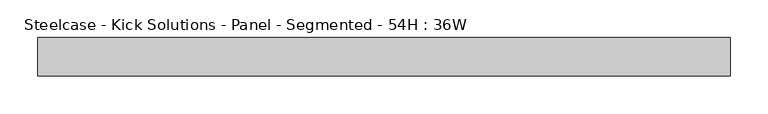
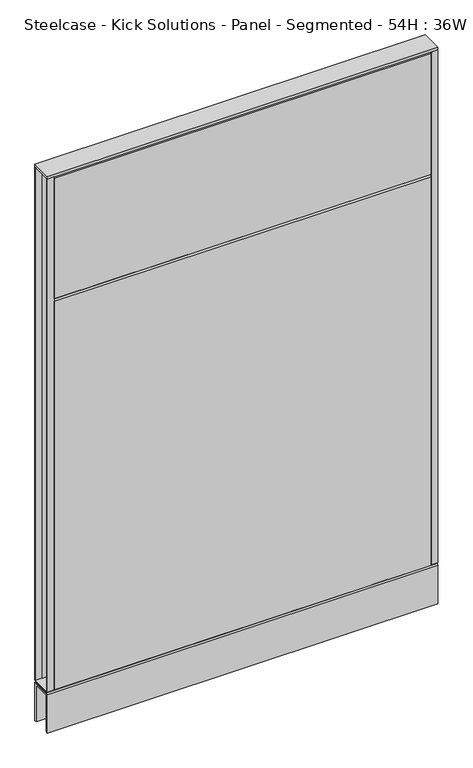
"""IFC4 building model written with IfcOpenShell, lengths in millimetres: furniture geometry, Steelcase - Kick Solutions - Panel - Segmented - 54H : 36W."""

import ifcopenshell
import ifcopenshell.guid

model = None  # the IFC model being written
_history = None  # IfcOwnerHistory: only IFC2X3 demands one
_inside = {}  # id of a spatial element -> (the spatial element, [elements in it])
_under = {}  # id of a project, library or spatial element -> (it, [spatial elements below it])
_declared = {}  # id of a project -> (the project, [libraries it declares])
_typed = {}  # id of a type object -> (the type object, [elements of that type])
_made_of = {}  # id of a material, layer set ... -> (it, [elements and type objects made of it])


def new_model(schema):
    """Start an empty IFC model of exactly this schema.

    Asked for "IFC4X3", IfcOpenShell would pick the latest addendum, in which some entities
    have other attributes; the version numbers below select the first issue.
    IFC2X3 requires an IfcOwnerHistory on every rooted entity: one is made here for all.
    """
    global model, _history
    if schema == "IFC4X3":
        model = ifcopenshell.file(schema_version=(4, 3, 0, 0))
    else:
        model = ifcopenshell.file(schema=schema)
    _inside.clear()
    _under.clear()
    _declared.clear()
    _typed.clear()
    _made_of.clear()
    _history = None
    if model.schema == "IFC2X3":
        org = make("IfcOrganization", Name="unknown")
        user = make(
            "IfcPersonAndOrganization",
            ThePerson=make("IfcPerson", FamilyName="unknown"),
            TheOrganization=org,
        )
        app = make(
            "IfcApplication",
            ApplicationDeveloper=org,
            Version="unknown",
            ApplicationFullName="unknown",
            ApplicationIdentifier="unknown",
        )
        _history = make(
            "IfcOwnerHistory",
            OwningUser=user,
            OwningApplication=app,
            ChangeAction="ADDED",
            CreationDate=0,
        )
    return model


def make(cls, **values):
    """One entity of the class cls with the attributes given. An attribute that is None is left unset."""
    return model.create_entity(
        cls, **{name: value for name, value in values.items() if value is not None}
    )


def rooted(cls, **values):
    """An entity with a GlobalId (a new one), such as an element, a storey or a relation."""
    return make(cls, GlobalId=ifcopenshell.guid.new(), OwnerHistory=_history, **values)


def si_unit(unit_type, name, prefix=None):
    """IfcSIUnit, for example si_unit("LENGTHUNIT", "METRE", prefix="MILLI")."""
    return make("IfcSIUnit", UnitType=unit_type, Prefix=prefix, Name=name)


def assignment(units):
    """IfcUnitAssignment: the units of a project."""
    return None if units is None else make("IfcUnitAssignment", Units=units)


def point(xyz):
    """IfcCartesianPoint."""
    return None if xyz is None else make("IfcCartesianPoint", Coordinates=xyz)


def direction(xyz):
    """IfcDirection."""
    return None if xyz is None else make("IfcDirection", DirectionRatios=xyz)


def frame(location, z_axis=None, x_axis=None):
    """IfcAxis2Placement3D, a coordinate frame: its origin and axes. An axis left out is left unset."""
    return make(
        "IfcAxis2Placement3D",
        Location=point(location),
        Axis=direction(z_axis),
        RefDirection=direction(x_axis),
    )


def origin():
    """The frame at (0, 0, 0) with its axes left unset."""
    return frame((0.0, 0.0, 0.0))


def place(relative_to, where):
    """IfcLocalPlacement: puts the frame where relative to a parent placement (None: the world)."""
    return make(
        "IfcLocalPlacement", PlacementRelTo=relative_to, RelativePlacement=where
    )


def context(
    kind, dimensions, precision=None, world=None, true_north=None, identifier=None
):
    """IfcGeometricRepresentationContext, for example the 3D "Model" context."""
    return make(
        "IfcGeometricRepresentationContext",
        ContextIdentifier=identifier,
        ContextType=kind,
        CoordinateSpaceDimension=dimensions,
        Precision=precision,
        WorldCoordinateSystem=world,
        TrueNorth=true_north,
    )


def project(units=None, contexts=None):
    """IfcProject with its units and contexts."""
    return rooted(
        "IfcProject",
        Name="project",
        RepresentationContexts=contexts,
        UnitsInContext=assignment(units),
    )


def spatial(cls, under=None, at=None, **own):
    """A site, building, storey or space (cls), placed at a placement, below another one or the project."""
    s = rooted(cls, ObjectPlacement=at, **own)
    if under is not None:
        _under.setdefault(under.id(), (under, []))[1].append(s)
    return s


def polyline(points):
    """IfcPolyline through the points."""
    return make("IfcPolyline", Points=[point(p) for p in points])


def outline(outer, holes=None, kind="AREA"):
    """IfcArbitraryClosedProfileDef: a profile drawn as a closed curve; with holes, ...WithVoids."""
    if holes is None:
        return make("IfcArbitraryClosedProfileDef", ProfileType=kind, OuterCurve=outer)
    return make(
        "IfcArbitraryProfileDefWithVoids",
        ProfileType=kind,
        OuterCurve=outer,
        InnerCurves=holes,
    )


def extrude(swept, where, along, depth):
    """IfcExtrudedAreaSolid: the profile swept, set in the frame where, extruded along a direction by depth."""
    return make(
        "IfcExtrudedAreaSolid",
        SweptArea=swept,
        Position=where,
        ExtrudedDirection=direction(along),
        Depth=depth,
    )


def shape(context_of_items, identifier, shape_type, items):
    """IfcShapeRepresentation: the items that make up one representation, for example the "Body"."""
    return make(
        "IfcShapeRepresentation",
        ContextOfItems=context_of_items,
        RepresentationIdentifier=identifier,
        RepresentationType=shape_type,
        Items=items,
    )


def source(mapping_origin, context_of_items, identifier, shape_type, items):
    """IfcRepresentationMap: a shape defined once, which mapped items show again and again."""
    return make(
        "IfcRepresentationMap",
        MappingOrigin=mapping_origin,
        MappedRepresentation=shape(context_of_items, identifier, shape_type, items),
    )


def transform(
    local_origin,
    x_axis=None,
    y_axis=None,
    z_axis=None,
    scale=None,
    scale2=None,
    scale3=None,
    uniform=True,
):
    """IfcCartesianTransformationOperator3D, or its non-uniform kind. x_axis, y_axis, z_axis: its Axis1, 2, 3."""
    if uniform:
        return make(
            "IfcCartesianTransformationOperator3D",
            Axis1=direction(x_axis),
            Axis2=direction(y_axis),
            LocalOrigin=point(local_origin),
            Scale=scale,
            Axis3=direction(z_axis),
        )
    return make(
        "IfcCartesianTransformationOperator3DnonUniform",
        Axis1=direction(x_axis),
        Axis2=direction(y_axis),
        LocalOrigin=point(local_origin),
        Scale=scale,
        Axis3=direction(z_axis),
        Scale2=scale2,
        Scale3=scale3,
    )


def mapped(mapping_source, mapping_target):
    """IfcMappedItem: shows the shape of a source again, moved by a transform."""
    return make(
        "IfcMappedItem", MappingSource=mapping_source, MappingTarget=mapping_target
    )


def made_of(thing, what):
    """Note that an element or type object is made of a material, layer set ...; save() writes the relation."""
    if what is not None:
        _made_of.setdefault(what.id(), (what, []))[1].append(thing)
    return thing


def element(
    cls,
    number,
    at=None,
    inside=None,
    cuts=None,
    type_object=None,
    material=None,
    context=None,
    identifier="Body",
    shape_type=None,
    held_by="IfcProductDefinitionShape",
    body=None,
    shapes=None,
    **own,
):
    """One element of the class cls, such as IfcWall. Its Tag is "e" and its number.

    at: its placement. inside: the storey or other place that contains it. cuts: it is an
    opening in that element (IfcRelVoidsElement). A single representation is given by context,
    identifier, shape_type and body (its items); several are given by shapes. held_by: the class
    of the entity that holds the representations. save() writes the other relations.
    """
    e = rooted(cls, Tag="e%d" % number, ObjectPlacement=at, **own)
    if body is not None:
        shapes = [shape(context, identifier, shape_type, body)]
    if shapes is not None:
        e.Representation = make(held_by, Representations=shapes)
    if inside is not None:
        _inside.setdefault(inside.id(), (inside, []))[1].append(e)
    if cuts is not None:
        rooted(
            "IfcRelVoidsElement", RelatingBuildingElement=cuts, RelatedOpeningElement=e
        )
    if type_object is not None:
        _typed.setdefault(type_object.id(), (type_object, []))[1].append(e)
    return made_of(e, material)


def aggregate(whole, parts):
    """IfcRelAggregates: a whole, such as a stair, and the parts it consists of."""
    return rooted("IfcRelAggregates", RelatingObject=whole, RelatedObjects=parts)


def save(model, path):
    """Write the relations noted so far, then the file.

    IfcRelAggregates (storeys below a building ...), IfcRelContainedInSpatialStructure (elements
    in a storey), IfcRelDefinesByType, IfcRelAssociatesMaterial and IfcRelDeclares: one each for
    every whole, place, type object, material and project.
    """
    for whole, parts in _under.values():
        aggregate(whole, parts)
    for where, things in _inside.values():
        rooted(
            "IfcRelContainedInSpatialStructure",
            RelatedElements=things,
            RelatingStructure=where,
        )
    for kind, things in _typed.values():
        rooted("IfcRelDefinesByType", RelatedObjects=things, RelatingType=kind)
    for what, things in _made_of.values():
        rooted("IfcRelAssociatesMaterial", RelatedObjects=things, RelatingMaterial=what)
    for by, libraries in _declared.values():
        rooted("IfcRelDeclares", RelatingContext=by, RelatedDefinitions=libraries)
    model.write(path)


def steelcase_kick_solutions_panel_segmented_54h_36w_4efaac05(model_context):
    return source(origin(), model_context, "Body", "SweptSolid", [
        extrude(outline(polyline([(1.5e-06, 101.600003), (-3.175, 101.600003), (-3.175, 1371.6), (1.5e-06, 1368.5188448), (1.5e-06, 101.600003)])), frame((15.8749996, 0.0, 0.0), z_axis=(1.0, 0.0, 0.0), x_axis=(0.0, 1.0, 0.0)), (0.0, 0.0, 1.0), 882.6500008),
        extrude(outline(polyline([(-50.8000015, 1069.8811552), (-50.8000015, 1368.5188448), (-47.625, 1371.6), (-47.625, 1066.8), (-50.8000015, 1069.8811552)])), frame((15.8749996, 0.0, 0.0), z_axis=(1.0, 0.0, 0.0), x_axis=(0.0, 1.0, 0.0)), (0.0, 0.0, 1.0), 882.6500008),
        extrude(outline(polyline([(-50.8000015, 101.600003), (-50.8000015, 1063.7188448), (-47.625, 1066.8), (-47.625, 101.600003), (-50.8000015, 101.600003)])), frame((15.8749996, 0.0, 0.0), z_axis=(1.0, 0.0, 0.0), x_axis=(0.0, 1.0, 0.0)), (0.0, 0.0, 1.0), 882.6500008),
        extrude(outline(polyline([(914.4, -3.1750015), (898.5250004, -3.1750015), (898.5250004, 0.0), (914.4, 0.0), (914.4, -3.1750015)])), frame((0.0, 0.0, 101.7169049), z_axis=(0.0, 0.0, 1.0), x_axis=(1.0, 0.0, 0.0)), (0.0, 0.0, 1.0), 1269.999997),
        extrude(outline(polyline([(15.8749996, -50.8000015), (0.0, -50.8000015), (0.0, -47.625), (15.8749996, -47.625), (15.8749996, -50.8000015)])), frame((0.0, 0.0, 101.7169049), z_axis=(0.0, 0.0, 1.0), x_axis=(1.0, 0.0, 0.0)), (0.0, 0.0, 1.0), 1269.999997),
        extrude(outline(polyline([(-50.7995075, 101.7169049), (-0.000494, 101.7169049), (-3.0583512, 98.5421458), (-47.7416503, 98.5421458), (-50.7995075, 101.7169049)])), frame((0.0, 0.0, 0.0), z_axis=(1.0, 0.0, 0.0), x_axis=(0.0, 1.0, 0.0)), (0.0, 0.0, 1.0), 914.4),
        extrude(outline(polyline([(914.4, 0.0), (914.4, -50.8000015), (0.0, -50.8000015), (0.0, 0.0), (914.4, 0.0)])), frame((0.0, 0.0, 1371.7169018), z_axis=(0.0, 0.0, 1.0), x_axis=(1.0, 0.0, 0.0)), (0.0, 0.0, 1.0), 6.35),
        extrude(outline(polyline([(15.8749996, -3.1750015), (0.0, -3.1750015), (0.0, 0.0), (15.8749996, 0.0), (15.8749996, -3.1750015)])), frame((0.0, 0.0, 101.7169049), z_axis=(0.0, 0.0, 1.0), x_axis=(1.0, 0.0, 0.0)), (0.0, 0.0, 1.0), 1269.999997),
        extrude(outline(polyline([(914.4, -50.8000015), (898.5250004, -50.8000015), (898.5250004, -47.625), (914.4, -47.625), (914.4, -50.8000015)])), frame((0.0, 0.0, 101.7169049), z_axis=(0.0, 0.0, 1.0), x_axis=(1.0, 0.0, 0.0)), (0.0, 0.0, 1.0), 1269.999997),
        extrude(outline(polyline([(-50.8000015, 95.3668927), (-47.6247484, 98.5421458), (-3.1752531, 98.5421458), (0.0, 95.3668927), (-50.8000015, 95.3668927)])), frame((0.0, 0.0, 0.0), z_axis=(1.0, 0.0, 0.0), x_axis=(0.0, 1.0, 0.0)), (0.0, 0.0, 1.0), 914.4),
        extrude(outline(polyline([(0.0, 0.0), (-5.08, 0.0), (-5.08, 90.2869018), (-45.7200015, 90.2869018), (-45.7200015, 0.0), (-50.8000015, 0.0), (-50.8000015, 95.3669018), (0.0, 95.3669018), (0.0, 0.0)])), frame((0.0, 0.0, 0.0), z_axis=(1.0, 0.0, 0.0), x_axis=(0.0, 1.0, 0.0)), (0.0, 0.0, 1.0), 914.4),
    ])


if __name__ == "__main__":
    model = new_model("IFC4")
    model_context = context("Model", 3, world=origin())
    ifc_project = project(units=[si_unit("LENGTHUNIT", "METRE", prefix="MILLI")], contexts=[model_context])
    site = spatial("IfcSite", under=ifc_project)
    building = spatial("IfcBuilding", under=site)
    placement = place(None, origin())
    steelcase_kick_solutions_panel_segmented_54h_36w_shape = steelcase_kick_solutions_panel_segmented_54h_36w_4efaac05(model_context)
    element("IfcFurniture", 1, ObjectType="Steelcase - Kick Solutions - Panel - Segmented - 54H : 36W", at=placement, inside=building, context=model_context, shape_type="MappedRepresentation", body=[
        mapped(steelcase_kick_solutions_panel_segmented_54h_36w_shape, transform((0.0, 0.0, 0.0), x_axis=(1.0, 0.0, 0.0), y_axis=(0.0, 1.0, 0.0), z_axis=(0.0, 0.0, 1.0))),
    ])
    save(model, "model.ifc")
